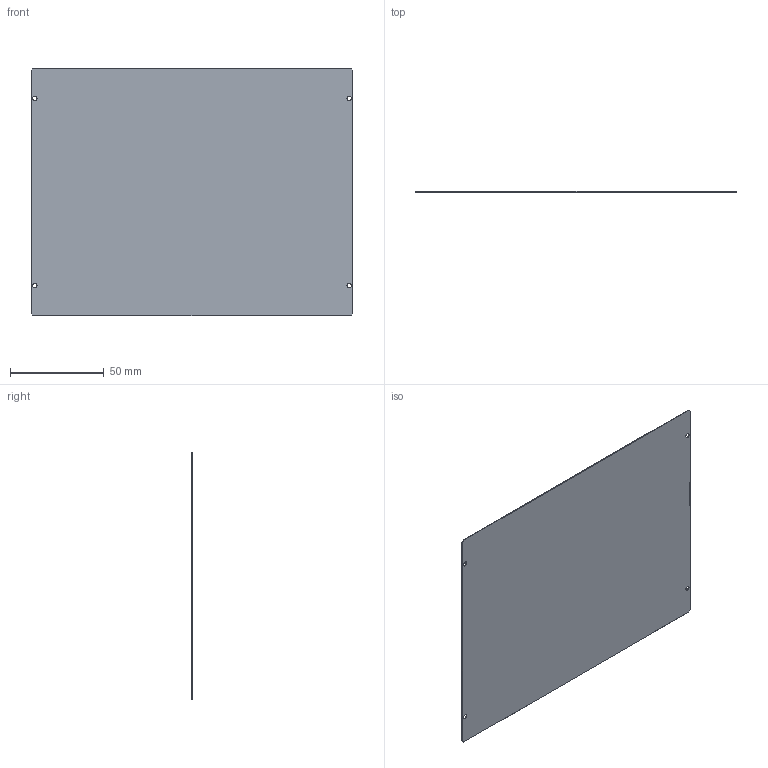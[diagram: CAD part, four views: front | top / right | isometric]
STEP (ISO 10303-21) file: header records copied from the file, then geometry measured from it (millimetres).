
FILE_DESCRIPTION (( 'STEP AP203' ), '1' );
FILE_NAME ('LC-TH-160X120-VE.STEP', '2020-06-08T08:18:58', ( 'CCS' ), ( 'シーシーエス株式会社' ), 'SwSTEP 2.0', 'SolidWorks 2017', '' );
FILE_SCHEMA (( 'CONFIG_CONTROL_DESIGN' ));
Length unit declared in the file: millimetre
Products named in the file (2): LC-TH-160X120-VE; KA07206-A001
Assembly tree (1 placements, depth 2):
  LC-TH-160X120-VE
    KA07206-A001
Bounding box: 172 x 0.5 x 132 mm (x, y, z)
Volume: 11342 mm3; surface area: 45685.7 mm2
Topology: 1 solids, 1 shells, 18 faces, 48 edges, 32 vertices
Faces by surface type: plane 10, cylinder 8
Entity records: 780 total; most frequent: DIRECTION 108, CARTESIAN_POINT 102, ORIENTED_EDGE 96, EDGE_CURVE 48, AXIS2_PLACEMENT_3D 38, VERTEX_POINT 32, VECTOR 32, LINE 32
